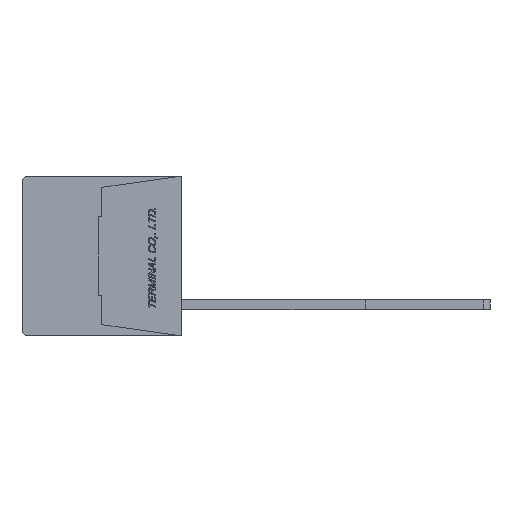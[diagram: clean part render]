
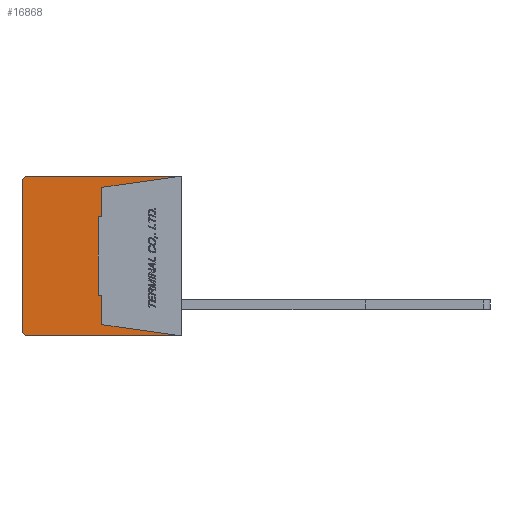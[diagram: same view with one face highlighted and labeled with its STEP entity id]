
A CAD part, left-side view. The second image highlights one B-rep face of the part: STEP entity #16868.
In plain terms, the highlighted planar face has unit normal (-1, 0, 0) as drawn and (1, 0, 0) by its records, which use the part's own axes.
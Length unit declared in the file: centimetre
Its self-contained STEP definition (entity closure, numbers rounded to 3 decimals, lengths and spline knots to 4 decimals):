
#852=CIRCLE('',#28555,0.05);
#853=CIRCLE('',#28556,0.05);
#1447=VERTEX_POINT('',#23112);
#1448=VERTEX_POINT('',#23114);
#1454=VERTEX_POINT('',#23128);
#1456=VERTEX_POINT('',#23134);
#1459=VERTEX_POINT('',#23142);
#1461=VERTEX_POINT('',#23148);
#1467=VERTEX_POINT('',#23162);
#1469=VERTEX_POINT('',#23168);
#1820=VERTEX_POINT('',#24706);
#1821=VERTEX_POINT('',#24708);
#1822=VERTEX_POINT('',#24710);
#1823=VERTEX_POINT('',#24712);
#3217=VECTOR('',#19035,1.);
#3224=VECTOR('',#19043,1.);
#3227=VECTOR('',#19047,1.);
#3230=VECTOR('',#19053,1.);
#3233=VECTOR('',#19057,1.);
#3240=VECTOR('',#19065,1.);
#3243=VECTOR('',#19069,1.);
#3661=VECTOR('',#19638,1.);
#3662=VECTOR('',#19641,1.);
#3663=VECTOR('',#19644,1.);
#5193=LINE('',#23113,#3217);
#5200=LINE('',#23127,#3224);
#5203=LINE('',#23133,#3227);
#5206=LINE('',#23141,#3230);
#5209=LINE('',#23147,#3233);
#5216=LINE('',#23161,#3240);
#5219=LINE('',#23167,#3243);
#5637=LINE('',#24705,#3661);
#5638=LINE('',#24709,#3662);
#5639=LINE('',#24713,#3663);
#7346=EDGE_CURVE('',#1448,#1447,#5193,.T.);
#7353=EDGE_CURVE('',#1454,#1448,#5200,.T.);
#7356=EDGE_CURVE('',#1456,#1454,#5203,.T.);
#7360=EDGE_CURVE('',#1459,#1456,#5206,.T.);
#7363=EDGE_CURVE('',#1461,#1459,#5209,.T.);
#7370=EDGE_CURVE('',#1467,#1461,#5216,.T.);
#7373=EDGE_CURVE('',#1469,#1467,#5219,.T.);
#7899=EDGE_CURVE('',#1447,#1820,#5637,.T.);
#7900=EDGE_CURVE('',#1821,#1820,#852,.T.);
#7901=EDGE_CURVE('',#1821,#1822,#5638,.T.);
#7902=EDGE_CURVE('',#1823,#1822,#853,.T.);
#7903=EDGE_CURVE('',#1823,#1469,#5639,.T.);
#11717=ORIENTED_EDGE('',*,*,#7346,.T.);
#11718=ORIENTED_EDGE('',*,*,#7899,.T.);
#11719=ORIENTED_EDGE('',*,*,#7900,.F.);
#11720=ORIENTED_EDGE('',*,*,#7901,.T.);
#11721=ORIENTED_EDGE('',*,*,#7902,.F.);
#11722=ORIENTED_EDGE('',*,*,#7903,.T.);
#11723=ORIENTED_EDGE('',*,*,#7373,.T.);
#11724=ORIENTED_EDGE('',*,*,#7370,.T.);
#11725=ORIENTED_EDGE('',*,*,#7363,.T.);
#11726=ORIENTED_EDGE('',*,*,#7360,.T.);
#11727=ORIENTED_EDGE('',*,*,#7356,.T.);
#11728=ORIENTED_EDGE('',*,*,#7353,.T.);
#14747=EDGE_LOOP('',(#11717,#11718,#11719,#11720,#11721,#11722,#11723,#11724,
#11725,#11726,#11727,#11728));
#15847=FACE_BOUND('',#14747,.T.);
#16868=ADVANCED_FACE('',(#15847),#17715,.F.);
#17715=PLANE('',#28554);
#19035=DIRECTION('',(0.,-0.99,-0.139));
#19043=DIRECTION('',(0.,0.,-1.));
#19047=DIRECTION('',(0.,-1.,0.));
#19053=DIRECTION('',(0.,0.,-1.));
#19057=DIRECTION('',(0.,1.,0.));
#19065=DIRECTION('',(0.,0.,-1.));
#19069=DIRECTION('',(0.,0.99,-0.139));
#19637=DIRECTION('',(-1.,0.,0.));
#19638=DIRECTION('',(0.,1.,0.));
#19639=DIRECTION('',(-1.,0.,0.));
#19640=DIRECTION('',(0.,0.,0.05));
#19641=DIRECTION('',(0.,0.,1.));
#19642=DIRECTION('',(-1.,0.,0.));
#19643=DIRECTION('',(0.,0.,0.05));
#19644=DIRECTION('',(0.,-1.,0.));
#23112=CARTESIAN_POINT('',(0.,0.,-0.64));
#23113=CARTESIAN_POINT('',(0.,0.64,-0.55));
#23114=CARTESIAN_POINT('',(0.,0.64,-0.55));
#23127=CARTESIAN_POINT('',(0.,0.64,-0.315));
#23128=CARTESIAN_POINT('',(0.,0.64,-0.315));
#23133=CARTESIAN_POINT('',(0.,0.67,-0.315));
#23134=CARTESIAN_POINT('',(0.,0.67,-0.315));
#23141=CARTESIAN_POINT('',(0.,0.67,0.315));
#23142=CARTESIAN_POINT('',(0.,0.67,0.315));
#23147=CARTESIAN_POINT('',(0.,0.64,0.315));
#23148=CARTESIAN_POINT('',(0.,0.64,0.315));
#23161=CARTESIAN_POINT('',(0.,0.64,0.55));
#23162=CARTESIAN_POINT('',(0.,0.64,0.55));
#23167=CARTESIAN_POINT('',(0.,0.,0.64));
#23168=CARTESIAN_POINT('',(0.,0.,0.64));
#24704=CARTESIAN_POINT('',(0.,0.6345,0.));
#24705=CARTESIAN_POINT('',(0.,0.,
-0.64));
#24706=CARTESIAN_POINT('',(0.,1.23,-0.64));
#24707=CARTESIAN_POINT('',(0.,1.23,-0.59));
#24708=CARTESIAN_POINT('',(0.,1.28,-0.59));
#24709=CARTESIAN_POINT('',(0.,1.28,-0.59));
#24710=CARTESIAN_POINT('',(0.,1.28,0.59));
#24711=CARTESIAN_POINT('',(0.,1.23,0.59));
#24712=CARTESIAN_POINT('',(0.,1.23,0.64));
#24713=CARTESIAN_POINT('',(0.,1.23,0.64));
#28554=AXIS2_PLACEMENT_3D('',#24704,#19637,$);
#28555=AXIS2_PLACEMENT_3D('',#24707,#19639,#19640);
#28556=AXIS2_PLACEMENT_3D('',#24711,#19642,#19643);
